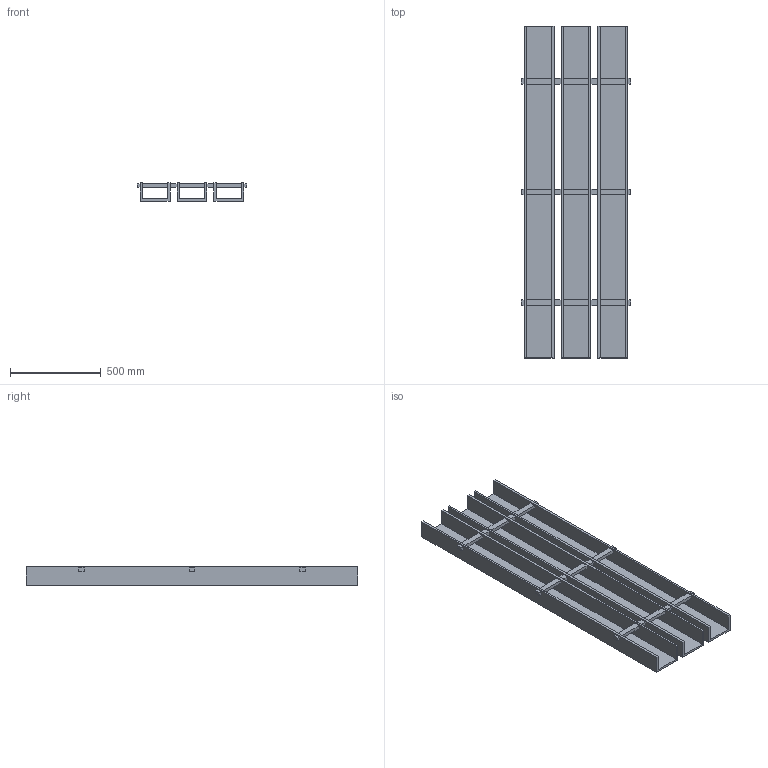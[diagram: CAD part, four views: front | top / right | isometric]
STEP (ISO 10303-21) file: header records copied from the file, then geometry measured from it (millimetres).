
FILE_DESCRIPTION(/* description */ (''),/* implementation_level */ '2;1');
FILE_NAME(/* name */ 'PET GRILLA_6.5x4_6ft',/* time_stamp */ '2024-10-15T14:22:51-05:00',/* author */ (''),/* organization */ (''),/* preprocessor_version */ 'ST-DEVELOPER v19.2',/* originating_system */ 'Rhino 8.4',/* authorisation */ '');
FILE_SCHEMA (('CONFIG_CONTROL_DESIGN'));
Length unit declared in the file: inch
Products named in the file (1): Document
Bounding box: 603.25 x 1828.8 x 101.6 mm (x, y, z)
Volume: 24848678.1 mm3; surface area: 4070556.4 mm2
Topology: 1 solids, 1 shells, 120 faces, 324 edges, 216 vertices
Faces by surface type: plane 120
Entity records: 3384 total; most frequent: CARTESIAN_POINT 986, ORIENTED_EDGE 648, EDGE_CURVE 324, B_SPLINE_CURVE_WITH_KNOTS 324, VERTEX_POINT 216, EDGE_LOOP 156, DIRECTION 124, AXIS2_PLACEMENT_3D 122
